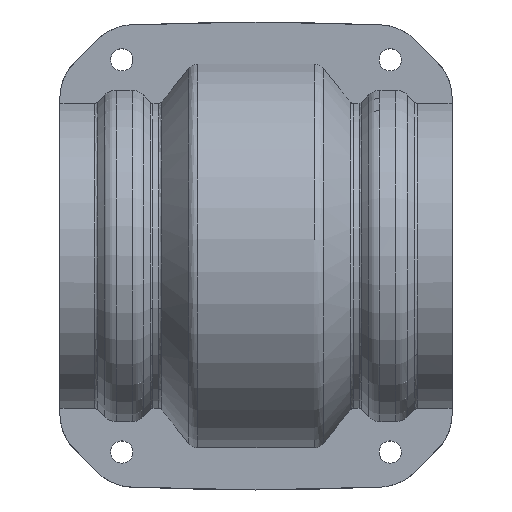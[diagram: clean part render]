
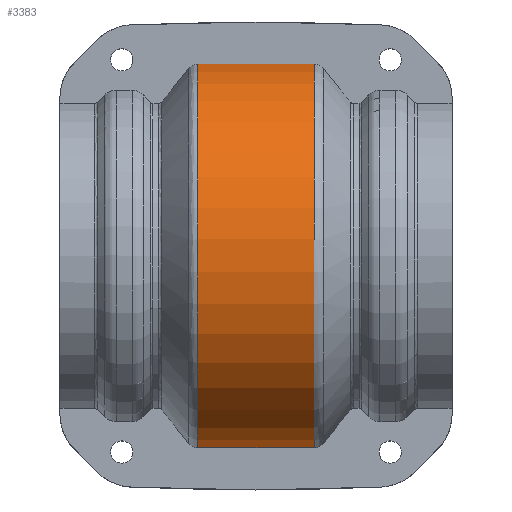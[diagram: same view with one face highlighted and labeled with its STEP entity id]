
A CAD part, top view. The second image highlights one B-rep face of the part: STEP entity #3383.
In plain terms, the highlighted cylindrical face has radius 56.9 mm (diameter 113.8 mm), a partial arc.
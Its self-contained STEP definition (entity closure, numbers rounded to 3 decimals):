
#289=CARTESIAN_POINT('',(-17.017,-56.262,8.5));
#589=CARTESIAN_POINT('',(17.017,56.262,8.5));
#1412=CARTESIAN_POINT('',(17.016,0.,0.));
#1413=DIRECTION('',(-1.,0.,0.));
#1414=DIRECTION('',(0.,-0.989,0.149));
#1415=AXIS2_PLACEMENT_3D('',#1412,#1413,#1414);
#1428=DIRECTION('',(1.,0.,0.));
#1429=VECTOR('',#1428,34.033);
#1430=CARTESIAN_POINT('',(-17.017,56.262,8.5));
#1431=LINE('',#1430,#1429);
#1435=DIRECTION('',(-1.,0.,0.));
#1436=VECTOR('',#1435,34.033);
#1437=CARTESIAN_POINT('',(17.017,-56.262,8.5));
#1438=LINE('',#1437,#1436);
#1450=CARTESIAN_POINT('',(-17.016,0.,0.));
#1451=DIRECTION('',(1.,0.,0.));
#1452=DIRECTION('',(0.,0.989,0.149));
#1453=AXIS2_PLACEMENT_3D('',#1450,#1451,#1452);
#2000=VERTEX_POINT('',#289);
#2001=CARTESIAN_POINT('',(17.017,-56.262,8.5));
#2002=VERTEX_POINT('',#2001);
#2059=VERTEX_POINT('',#589);
#2060=CARTESIAN_POINT('',(-17.017,56.262,8.5));
#2061=VERTEX_POINT('',#2060);
#3371=CARTESIAN_POINT('',(88.42,0.,0.));
#3372=DIRECTION('',(-1.,0.,0.));
#3373=DIRECTION('',(0.,-1.,0.));
#3374=AXIS2_PLACEMENT_3D('',#3371,#3372,#3373);
#3375=CYLINDRICAL_SURFACE('',#3374,56.9);
#3377=ORIENTED_EDGE('',*,*,#3376,.F.);
#3378=ORIENTED_EDGE('',*,*,#2527,.T.);
#3379=ORIENTED_EDGE('',*,*,#3363,.F.);
#3380=ORIENTED_EDGE('',*,*,#2376,.T.);
#3381=EDGE_LOOP('',(#3377,#3378,#3379,#3380));
#3382=FACE_OUTER_BOUND('',#3381,.F.);
#1416=CIRCLE('',#1415,56.9);
#1454=CIRCLE('',#1453,56.9);
#2376=EDGE_CURVE('',#2002,#2000,#1438,.T.);
#2527=EDGE_CURVE('',#2061,#2059,#1431,.T.);
#3363=EDGE_CURVE('',#2002,#2059,#1416,.T.);
#3376=EDGE_CURVE('',#2061,#2000,#1454,.T.);
#3383=ADVANCED_FACE('',(#3382),#3375,.T.);
